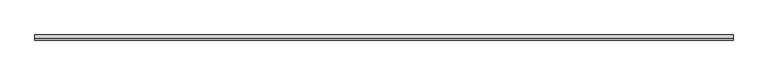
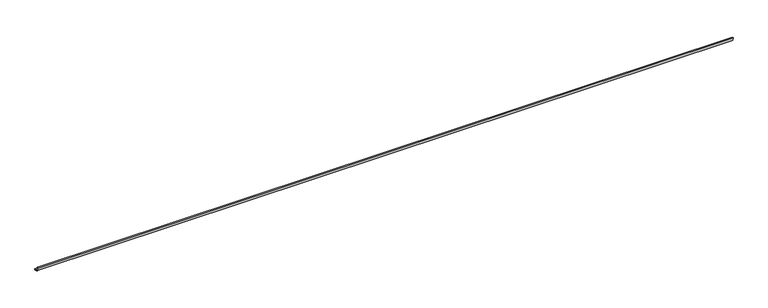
"""IFC4 building model written with IfcOpenShell, lengths in millimetres: proxy geometry, EXAGRES - Piscina Mediacaña : Nubia_33x4cm."""

from ifc_helpers import new_model, si_unit, point, frame, frame_2d, origin, place, context, project, spatial, polyline, circle_curve, trimmed, segment, composite_curve, outline, extrude, source, transform, mapped, element, save


def generic_models_9f74ba0b(model_context):
    return source(origin(), model_context, "Body", "SweptSolid", [
        extrude(outline(composite_curve([segment(trimmed(circle_curve(frame_2d((23.9, 23.9)), 23.9), [point((0.0, 23.9))], [point((23.9, 0.0))], True, "CARTESIAN"), True, "CONTINUOUS"), segment(polyline([(23.9, 0.0), (23.9, -6.4)]), True, "CONTINUOUS"), segment(trimmed(circle_curve(frame_2d((23.9, 23.9)), 30.3), [point((23.9, -6.4))], [point((-6.4, 23.9))], False, "CARTESIAN"), True, "CONTINUOUS"), segment(polyline([(-6.4, 23.9), (0.0, 23.9)]), True, "CONTINUOUS")], self_intersect=False)), frame((0.0, 0.0, 0.0), z_axis=(1.0, 0.0, 0.0), x_axis=(0.0, 1.0, 0.0)), (0.0, 0.0, 1.0), 4123.1056256),
    ])


if __name__ == "__main__":
    model = new_model("IFC4")
    model_context = context("Model", 3, world=origin())
    ifc_project = project(units=[si_unit("LENGTHUNIT", "METRE", prefix="MILLI")], contexts=[model_context])
    site = spatial("IfcSite", under=ifc_project)
    building = spatial("IfcBuilding", under=site)
    placement = place(None, origin())
    generic_models_shape = generic_models_9f74ba0b(model_context)
    element("IfcBuildingElementProxy", 1, Name="EXAGRES - Piscina Mediacaña : Nubia_33x4cm", ObjectType="EXAGRES - Piscina Mediacaña : Nubia_33x4cm", at=placement, inside=building, context=model_context, shape_type="MappedRepresentation", body=[
        mapped(generic_models_shape, transform((0.0, 0.0, 0.0), x_axis=(1.0, 0.0, 0.0), y_axis=(0.0, 1.0, 0.0), z_axis=(0.0, 0.0, 1.0))),
    ])
    save(model, "model.ifc")
